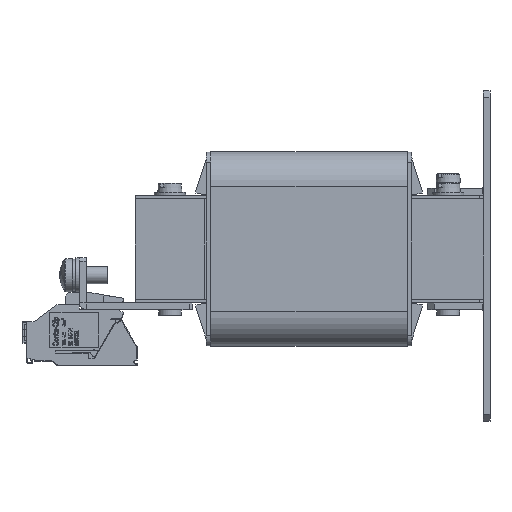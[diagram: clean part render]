
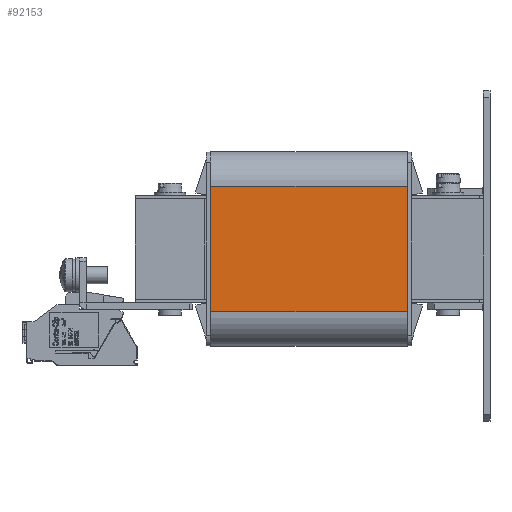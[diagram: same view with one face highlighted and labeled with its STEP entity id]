
A CAD part, left-side view. The second image highlights one B-rep face of the part: STEP entity #92153.
In plain terms, the highlighted planar face has unit normal (-1, 0, 0).
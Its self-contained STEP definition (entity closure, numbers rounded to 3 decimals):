
#756 = VERTEX_POINT ( 'NONE', #50132 ) ;
#2891 = CARTESIAN_POINT ( 'NONE',  ( 0., 56.6, -46. ) ) ;
#3482 = DIRECTION ( 'NONE',  ( 0., 0., 1. ) ) ;
#10760 = DIRECTION ( 'NONE',  ( 0., 1., 0. ) ) ;
#13537 = EDGE_LOOP ( 'NONE', ( #65293, #22065, #28799, #80530 ) ) ;
#16721 = EDGE_CURVE ( 'NONE', #59085, #19700, #84379, .T. ) ;
#19700 = VERTEX_POINT ( 'NONE', #45003 ) ;
#21330 = LINE ( 'NONE', #46289, #38061 ) ;
#22065 = ORIENTED_EDGE ( 'NONE', *, *, #28962, .T. ) ;
#28799 = ORIENTED_EDGE ( 'NONE', *, *, #56053, .T. ) ;
#28962 = EDGE_CURVE ( 'NONE', #59085, #756, #81734, .T. ) ;
#33425 = PLANE ( 'NONE',  #69010 ) ;
#38061 = VECTOR ( 'NONE', #10760, 1000. ) ;
#40585 = DIRECTION ( 'NONE',  ( 0., 0., -1. ) ) ;
#42862 = FACE_OUTER_BOUND ( 'NONE', #13537, .T. ) ;
#45003 = CARTESIAN_POINT ( 'NONE',  ( 0., 56.6, -10. ) ) ;
#46289 = CARTESIAN_POINT ( 'NONE',  ( 0., 56.6, -10. ) ) ;
#47528 = EDGE_CURVE ( 'NONE', #80402, #19700, #21330, .T. ) ;
#49306 = CARTESIAN_POINT ( 'NONE',  ( 0., 56.6, -46. ) ) ;
#50132 = CARTESIAN_POINT ( 'NONE',  ( 0., 0., -46. ) ) ;
#54059 = VECTOR ( 'NONE', #70653, 1000. ) ;
#54610 = CARTESIAN_POINT ( 'NONE',  ( 0., 56.6, 0. ) ) ;
#56053 = EDGE_CURVE ( 'NONE', #756, #80402, #89704, .T. ) ;
#59085 = VERTEX_POINT ( 'NONE', #49306 ) ;
#59242 = CARTESIAN_POINT ( 'NONE',  ( 0., 0., -10. ) ) ;
#59873 = DIRECTION ( 'NONE',  ( 0., -1., 0. ) ) ;
#62808 = VECTOR ( 'NONE', #59873, 1000. ) ;
#63518 = CARTESIAN_POINT ( 'NONE',  ( 0., 0., 0. ) ) ;
#65293 = ORIENTED_EDGE ( 'NONE', *, *, #16721, .F. ) ;
#65387 = VECTOR ( 'NONE', #3482, 1000. ) ;
#69010 = AXIS2_PLACEMENT_3D ( 'NONE', #54610, #83251, #40585 ) ;
#70653 = DIRECTION ( 'NONE',  ( 0., 0., 1. ) ) ;
#80402 = VERTEX_POINT ( 'NONE', #59242 ) ;
#80530 = ORIENTED_EDGE ( 'NONE', *, *, #47528, .T. ) ;
#81734 = LINE ( 'NONE', #2891, #62808 ) ;
#83251 = DIRECTION ( 'NONE',  ( 1., 0., 0. ) ) ;
#84379 = LINE ( 'NONE', #88803, #65387 ) ;
#88803 = CARTESIAN_POINT ( 'NONE',  ( 0., 56.6, 0. ) ) ;
#89704 = LINE ( 'NONE', #63518, #54059 ) ;
#92153 = ADVANCED_FACE ( 'NONE', ( #42862 ), #33425, .F. ) ;
